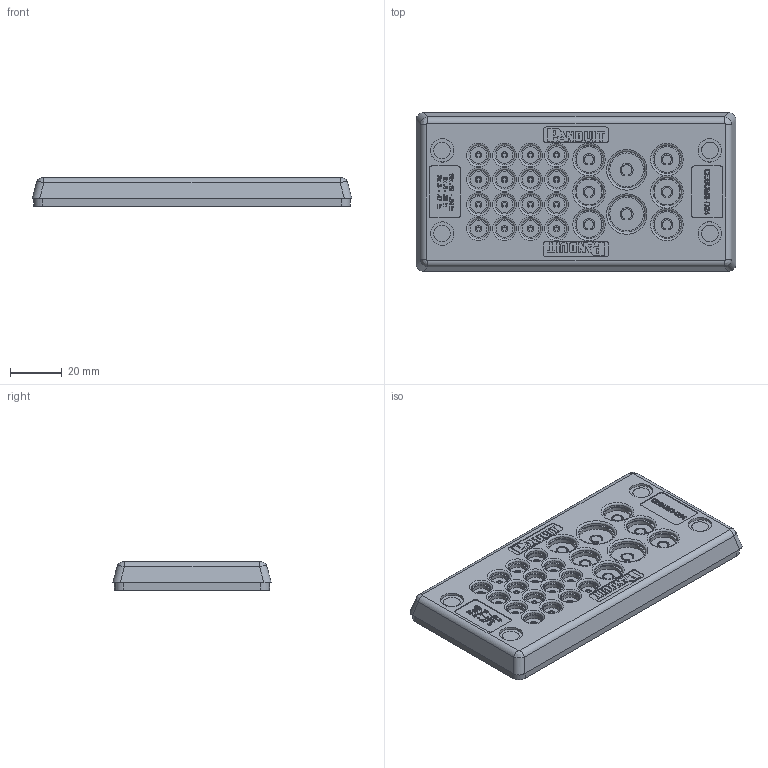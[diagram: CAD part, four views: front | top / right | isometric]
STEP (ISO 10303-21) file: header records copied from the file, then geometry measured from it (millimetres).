
FILE_DESCRIPTION(/* description */ (''),/* implementation_level */ '2;1');
FILE_NAME(/* name */ 'C:\SapWorkDir\Inventor\MP1\ConvertTempPath\87_16_121312_00_A_220602_KDP-Z 16-24.stp',/* time_stamp */ '2022-06-02T09:24:16+02:00',/* author */ ('BAUER'),/* organization */ (''),/* preprocessor_version */ 'ST-DEVELOPER v16.13',/* originating_system */ 'Autodesk Inventor 2018',/* authorisation */ '');
FILE_SCHEMA (('AUTOMOTIVE_DESIGN { 1 0 10303 214 3 1 1 }'));
Products named in the file (1): 121312
Bounding box: 123 x 61 x 11 mm (x, y, z)
Volume: 36515.4 mm3; surface area: 38612.4 mm2
Topology: 2 solids, 2 shells, 2337 faces, 5866 edges, 3520 vertices
Faces by surface type: plane 1006, cylinder 731, bspline 244, sphere 212, torus 84, cone 60
Full cylindrical faces by diameter (mm): 6 x3, 6.4 x8, 6.5 x16, 9.9 x6, 13 x2
Entity records: 70094 total; most frequent: CARTESIAN_POINT 15671, ORIENTED_EDGE 11134, DIRECTION 11005, EDGE_CURVE 5567, AXIS2_PLACEMENT_3D 3880, VERTEX_POINT 3508, LINE 3245, VECTOR 3245
